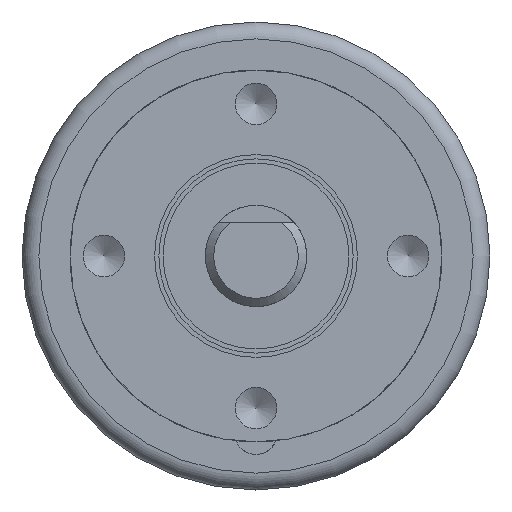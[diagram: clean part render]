
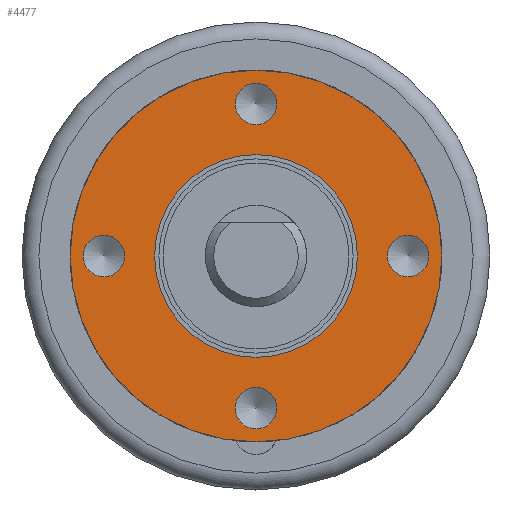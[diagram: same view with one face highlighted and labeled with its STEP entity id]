
A CAD part, front view. The second image highlights one B-rep face of the part: STEP entity #4477.
In plain terms, the highlighted planar face has unit normal (0, -1, 0).
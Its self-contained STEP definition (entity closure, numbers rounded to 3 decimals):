
#3026=CARTESIAN_POINT('',(10.23,-3.75,0.0));
#3027=VERTEX_POINT('',#3026);
#3028=CARTESIAN_POINT('',(9.0,-3.75,0.0));
#3029=DIRECTION('',(0.0,1.0,0.0));
#3030=DIRECTION('',(1.0,0.0,0.0));
#3031=AXIS2_PLACEMENT_3D('',#3028,#3029,#3030);
#3032=CIRCLE('',#3031,1.23);
#3033=EDGE_CURVE('',#3027,#3027,#3032,.T.);
#3105=CARTESIAN_POINT('',(-7.771,-3.75,0.0));
#3106=VERTEX_POINT('',#3105);
#3107=CARTESIAN_POINT('',(-9.0,-3.75,0.0));
#3108=DIRECTION('',(0.0,1.0,0.0));
#3109=DIRECTION('',(1.0,0.0,0.0));
#3110=AXIS2_PLACEMENT_3D('',#3107,#3108,#3109);
#3111=CIRCLE('',#3110,1.23);
#3112=EDGE_CURVE('',#3106,#3106,#3111,.T.);
#3184=CARTESIAN_POINT('',(1.23,-3.75,9.0));
#3185=VERTEX_POINT('',#3184);
#3186=CARTESIAN_POINT('',(0.0,-3.75,9.0));
#3187=DIRECTION('',(0.0,1.0,0.0));
#3188=DIRECTION('',(1.0,0.0,0.0));
#3189=AXIS2_PLACEMENT_3D('',#3186,#3187,#3188);
#3190=CIRCLE('',#3189,1.23);
#3191=EDGE_CURVE('',#3185,#3185,#3190,.T.);
#3263=CARTESIAN_POINT('',(1.23,-3.75,-9.0));
#3264=VERTEX_POINT('',#3263);
#3265=CARTESIAN_POINT('',(0.0,-3.75,-9.0));
#3266=DIRECTION('',(0.0,1.0,0.0));
#3267=DIRECTION('',(1.0,0.0,0.0));
#3268=AXIS2_PLACEMENT_3D('',#3265,#3266,#3267);
#3269=CIRCLE('',#3268,1.23);
#3270=EDGE_CURVE('',#3264,#3264,#3269,.T.);
#3517=CARTESIAN_POINT('',(6.,-3.75,0.));
#3518=VERTEX_POINT('',#3517);
#3519=CARTESIAN_POINT('',(0.0,-3.75,0.0));
#3520=DIRECTION('',(0.0,1.0,0.0));
#3521=DIRECTION('',(-1.0,0.0,0.0));
#3522=AXIS2_PLACEMENT_3D('',#3519,#3520,#3521);
#3523=CIRCLE('',#3522,6.);
#3524=EDGE_CURVE('',#3518,#3518,#3523,.T.);
#4385=CARTESIAN_POINT('',(-11.0,-3.75,0.));
#4386=VERTEX_POINT('',#4385);
#4387=CARTESIAN_POINT('',(0.0,-3.75,0.0));
#4388=DIRECTION('',(0.0,-1.0,0.0));
#4389=DIRECTION('',(1.0,0.0,0.0));
#4390=AXIS2_PLACEMENT_3D('',#4387,#4388,#4389);
#4391=CIRCLE('',#4390,11.0);
#4392=EDGE_CURVE('',#4386,#4386,#4391,.T.);
#4454=CARTESIAN_POINT('',(0.0,-3.75,0.0));
#4455=DIRECTION('',(0.0,-1.0,0.0));
#4456=DIRECTION('',(0.0,0.0,-1.0));
#4457=AXIS2_PLACEMENT_3D('',#4454,#4455,#4456);
#4458=PLANE('',#4457);
#4459=ORIENTED_EDGE('',*,*,#4392,.T.);
#4460=EDGE_LOOP('',(#4459));
#4461=FACE_OUTER_BOUND('',#4460,.T.);
#4462=ORIENTED_EDGE('',*,*,#3033,.T.);
#4463=EDGE_LOOP('',(#4462));
#4464=FACE_BOUND('',#4463,.T.);
#4465=ORIENTED_EDGE('',*,*,#3112,.T.);
#4466=EDGE_LOOP('',(#4465));
#4467=FACE_BOUND('',#4466,.T.);
#4468=ORIENTED_EDGE('',*,*,#3191,.T.);
#4469=EDGE_LOOP('',(#4468));
#4470=FACE_BOUND('',#4469,.T.);
#4471=ORIENTED_EDGE('',*,*,#3270,.T.);
#4472=EDGE_LOOP('',(#4471));
#4473=FACE_BOUND('',#4472,.T.);
#4474=ORIENTED_EDGE('',*,*,#3524,.T.);
#4475=EDGE_LOOP('',(#4474));
#4476=FACE_BOUND('',#4475,.T.);
#4477=ADVANCED_FACE('',(#4461,#4464,#4467,#4470,#4473,#4476),#4458,.T.);
